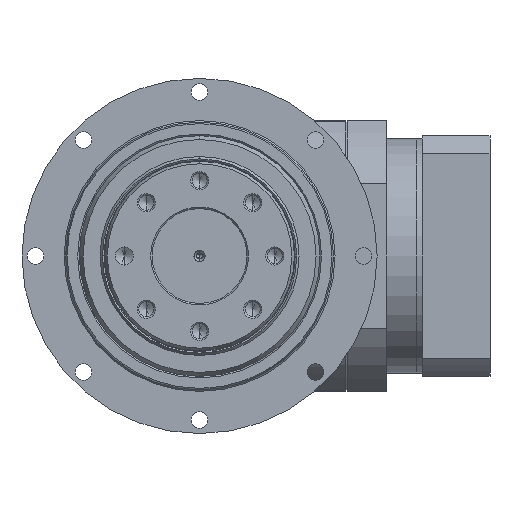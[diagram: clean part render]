
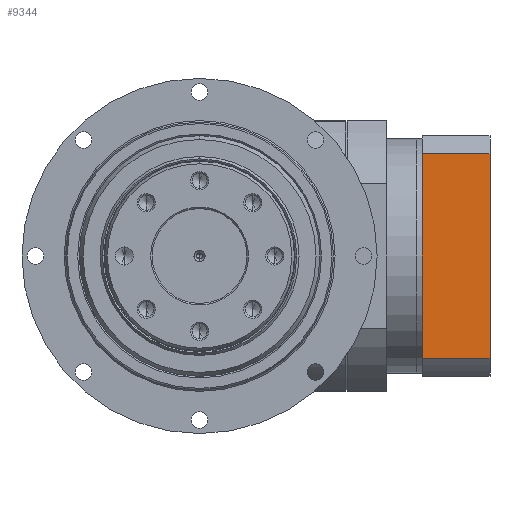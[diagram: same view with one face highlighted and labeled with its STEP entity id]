
A CAD part, left-side view. The second image highlights one B-rep face of the part: STEP entity #9344.
In plain terms, the highlighted planar face has unit normal (-1, 0, 0).
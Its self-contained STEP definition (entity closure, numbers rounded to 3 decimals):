
#1883 = VERTEX_POINT ( 'NONE', #7478 ) ;
#2234 = EDGE_CURVE ( 'NONE', #1883, #15760, #13843, .T. ) ;
#2620 = ORIENTED_EDGE ( 'NONE', *, *, #12652, .T. ) ;
#2692 = CARTESIAN_POINT ( 'NONE',  ( 23., -74., -34.004 ) ) ;
#2700 = VERTEX_POINT ( 'NONE', #2692 ) ;
#2750 = ORIENTED_EDGE ( 'NONE', *, *, #3000, .T. ) ;
#3000 = EDGE_CURVE ( 'NONE', #2700, #1883, #19833, .T. ) ;
#3837 = VERTEX_POINT ( 'NONE', #8278 ) ;
#4540 = CARTESIAN_POINT ( 'NONE',  ( 23., -74., 40. ) ) ;
#6067 = DIRECTION ( 'NONE',  ( -1., 0., 0. ) ) ;
#7371 = DIRECTION ( 'NONE',  ( 0., 0., -1. ) ) ;
#7478 = CARTESIAN_POINT ( 'NONE',  ( 23., -96.5, -34.004 ) ) ;
#7723 = DIRECTION ( 'NONE',  ( 0., 0., 1. ) ) ;
#7861 = CARTESIAN_POINT ( 'NONE',  ( 23., -69.5, 34.004 ) ) ;
#8278 = CARTESIAN_POINT ( 'NONE',  ( 23., -74., 34.004 ) ) ;
#8525 = PLANE ( 'NONE',  #16657 ) ;
#8939 = VECTOR ( 'NONE', #12668, 1000. ) ;
#9344 = ADVANCED_FACE ( 'NONE', ( #11172 ), #8525, .T. ) ;
#9917 = CARTESIAN_POINT ( 'NONE',  ( 23., 77.324, 40. ) ) ;
#9952 = CARTESIAN_POINT ( 'NONE',  ( 23., -96.5, 34.004 ) ) ;
#11112 = VECTOR ( 'NONE', #13493, 1000. ) ;
#11172 = FACE_OUTER_BOUND ( 'NONE', #16111, .T. ) ;
#11782 = CARTESIAN_POINT ( 'NONE',  ( 23., -96.5, -52.5 ) ) ;
#12481 = ORIENTED_EDGE ( 'NONE', *, *, #2234, .T. ) ;
#12652 = EDGE_CURVE ( 'NONE', #15760, #3837, #17113, .T. ) ;
#12668 = DIRECTION ( 'NONE',  ( 0., 1., 0. ) ) ;
#13250 = DIRECTION ( 'NONE',  ( 0., -1., 0. ) ) ;
#13493 = DIRECTION ( 'NONE',  ( 0., 0., 1. ) ) ;
#13843 = LINE ( 'NONE', #11782, #11112 ) ;
#15760 = VERTEX_POINT ( 'NONE', #9952 ) ;
#16111 = EDGE_LOOP ( 'NONE', ( #2620, #20254, #2750, #12481 ) ) ;
#16657 = AXIS2_PLACEMENT_3D ( 'NONE', #9917, #6067, #7371 ) ;
#17113 = LINE ( 'NONE', #7861, #8939 ) ;
#18483 = VECTOR ( 'NONE', #7723, 1000. ) ;
#18725 = LINE ( 'NONE', #4540, #18483 ) ;
#19300 = VECTOR ( 'NONE', #13250, 1000. ) ;
#19689 = CARTESIAN_POINT ( 'NONE',  ( 23., -69.5, -34.004 ) ) ;
#19833 = LINE ( 'NONE', #19689, #19300 ) ;
#20063 = EDGE_CURVE ( 'NONE', #2700, #3837, #18725, .T. ) ;
#20254 = ORIENTED_EDGE ( 'NONE', *, *, #20063, .F. ) ;
